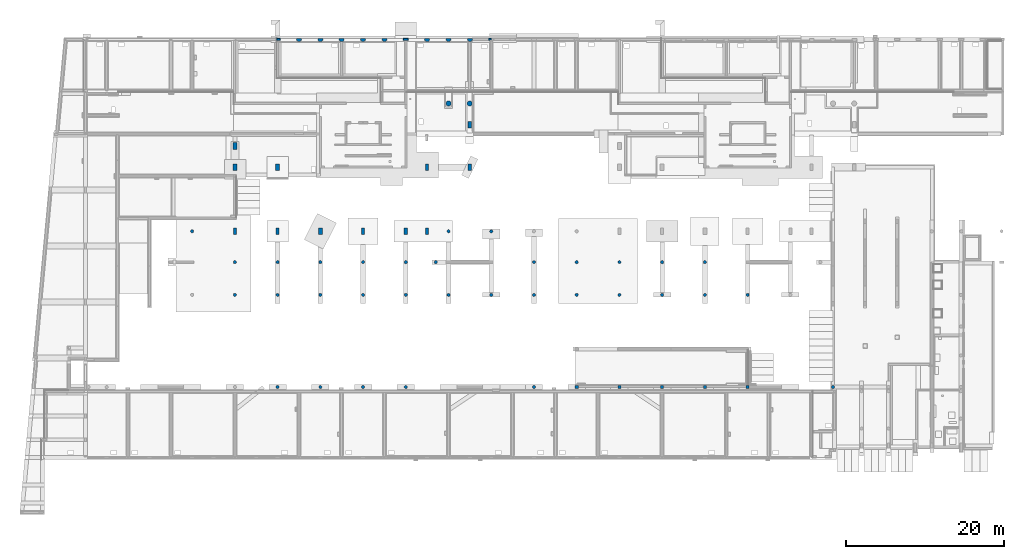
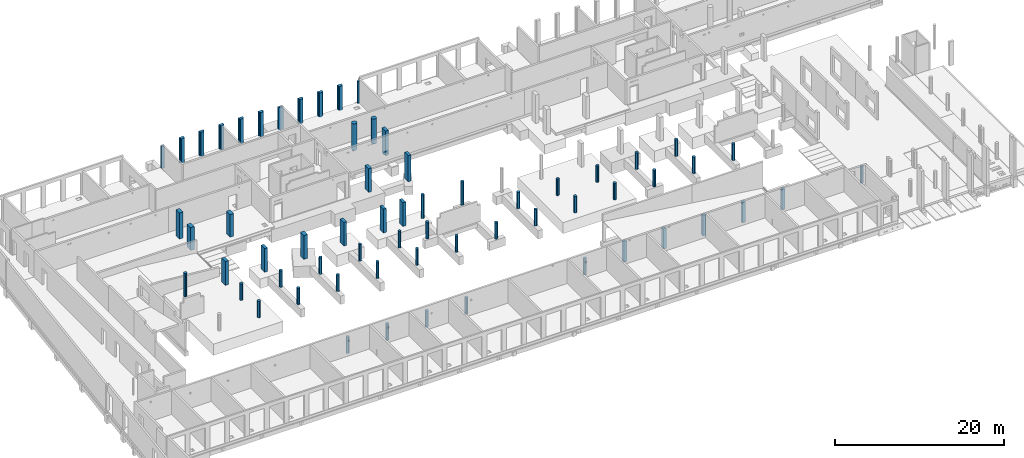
# One storey, part 14 of 60: 63 columns.
"""IFC2X3 building model written with IfcOpenShell, lengths in millimetres."""

from ifc_helpers import new_model, entity, si_unit, converted_unit, derived_unit, direction, frame, frame_2d, origin, origin_2d_with_axis, place, context, subcontext, project, spatial, polyline, rectangle, circle, outline, extrude, source, transform, mapped, material, type_object, type_shapes, element, save


model = new_model("IFC2X3")

# Units and contexts
model_context = context("Model", 3, precision=0.01, world=origin(), true_north=direction((6.12303176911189e-17, 1.0)))
body_context = subcontext(model_context, "Body", "Model", "MODEL_VIEW")
ifc_project = project(units=[si_unit("LENGTHUNIT", "METRE", prefix="MILLI"), si_unit("AREAUNIT", "SQUARE_METRE"), si_unit("VOLUMEUNIT", "CUBIC_METRE"), converted_unit("PLANEANGLEUNIT", "DEGREE", entity("IfcRatioMeasure", 0.0174532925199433), si_unit("PLANEANGLEUNIT", "RADIAN"), dimensions=[0, 0, 0, 0, 0, 0, 0]), si_unit("MASSUNIT", "GRAM", prefix="KILO"), derived_unit("MASSDENSITYUNIT", [(si_unit("MASSUNIT", "GRAM", prefix="KILO"), 1), (si_unit("LENGTHUNIT", "METRE"), -3)]), si_unit("TIMEUNIT", "SECOND"), si_unit("FREQUENCYUNIT", "HERTZ"), si_unit("THERMODYNAMICTEMPERATUREUNIT", "DEGREE_CELSIUS"), derived_unit("THERMALTRANSMITTANCEUNIT", [(si_unit("MASSUNIT", "GRAM", prefix="KILO"), 1), (si_unit("THERMODYNAMICTEMPERATUREUNIT", "KELVIN"), -1), (si_unit("TIMEUNIT", "SECOND"), -3)]), derived_unit("VOLUMETRICFLOWRATEUNIT", [(si_unit("LENGTHUNIT", "METRE"), 3), (si_unit("TIMEUNIT", "SECOND"), -1)]), si_unit("ELECTRICCURRENTUNIT", "AMPERE"), si_unit("ELECTRICVOLTAGEUNIT", "VOLT"), si_unit("POWERUNIT", "WATT"), si_unit("FORCEUNIT", "NEWTON", prefix="KILO"), si_unit("ILLUMINANCEUNIT", "LUX"), si_unit("LUMINOUSFLUXUNIT", "LUMEN"), si_unit("LUMINOUSINTENSITYUNIT", "CANDELA"), derived_unit("USERDEFINED", [(si_unit("MASSUNIT", "GRAM", prefix="KILO"), -1), (si_unit("LENGTHUNIT", "METRE"), -2), (si_unit("TIMEUNIT", "SECOND"), 3), (si_unit("LUMINOUSFLUXUNIT", "LUMEN"), 1)]), derived_unit("LINEARVELOCITYUNIT", [(si_unit("LENGTHUNIT", "METRE"), 1), (si_unit("TIMEUNIT", "SECOND"), -1)]), si_unit("PRESSUREUNIT", "PASCAL"), derived_unit("USERDEFINED", [(si_unit("LENGTHUNIT", "METRE"), -2), (si_unit("MASSUNIT", "GRAM", prefix="KILO"), 1), (si_unit("TIMEUNIT", "SECOND"), -2)])], contexts=[model_context])

# Site, building, storey
site_placement = place(None, origin())
site = spatial("IfcSite", under=ifc_project, at=site_placement, Name="Default", CompositionType="ELEMENT")
building_placement = place(site_placement, origin())
building = spatial("IfcBuilding", under=site, at=building_placement, Name="niet gebruiken", CompositionType="ELEMENT")
storey_placement = place(building_placement, origin())
storey = spatial("IfcBuildingStorey", under=building, at=storey_placement, Name="00 begane grond", CompositionType="ELEMENT", Elevation=0.0)

# Columns
ifc_material_1 = material(Name="NLRS_f2_beton prefab")
column_type_1 = type_object("IfcColumnType", Name="400x850", PredefinedType="COLUMN", material=ifc_material_1)
shared_shape_1 = source(origin(), body_context, "Body", "SweptSolid", [
    extrude(rectangle(XDim=850.0, YDim=400.0, at=origin_2d_with_axis()), frame((0.0, 0.0, -170.0), z_axis=(0.0, 0.0, 1.0), x_axis=(0.0, -1.0, 0.0)), (0.0, 0.0, 1.0), 3430.0),
])
type_shapes(column_type_1, [shared_shape_1])
for number, where, name in (
    (1, (32400.0, 28881.0, 0.0), "NLRS_28. kolom vierkant_gen:400x850"),
    (2, (27025.0, 28881.0, 0.0), "NLRS_28. kolom vierkant_gen:400x850"),
    (3, (43200.0, 28881.0, 0.0), "NLRS_28. kolom vierkant_gen:400x850"),
    (4, (48600.0, 28881.0, 0.0), "NLRS_28. kolom vierkant_gen:400x850"),
    (5, (51275.0, 28881.0, 0.0), "NLRS_28. kolom vierkant_gen:400x850"),
):
    element("IfcColumn", number, at=place(storey_placement, frame(where)), inside=storey, type_object=column_type_1, material=ifc_material_1, Name=name, ObjectType="400x850", context=body_context, shape_type="MappedRepresentation", body=[
        mapped(shared_shape_1, transform((0.0, 0.0, 0.0), scale=1.0)),
    ])
column_1_placement = place(storey_placement, frame((51275.0, 36981.0, 0.0), z_axis=(0.0, 0.0, 1.0), x_axis=(-1.0, 0.0, 0.0)))
element("IfcColumn", 6, at=column_1_placement, inside=storey, type_object=column_type_1, material=ifc_material_1, Name="NLRS_28. kolom vierkant_gen:400x850", ObjectType="400x850", context=body_context, shape_type="MappedRepresentation", body=[
    mapped(shared_shape_1, transform((0.0, 0.0, 0.0), scale=1.0)),
])
column_type_2 = type_object("IfcColumnType", Name="ø400", PredefinedType="COLUMN", material=ifc_material_1)
shared_shape_2 = source(origin(), body_context, "Body", "SweptSolid", [
    extrude(circle(Radius=200.0, at=frame_2d((1.69197988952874e-14, -3.02923644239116e-13), x_axis=(1.0, 0.0))), frame((0.0, 0.0, -170.0)), (0.0, 0.0, 1.0), 2390.00000000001),
])
type_shapes(column_type_2, [shared_shape_2])
for number, where in (
    (7, (27000.0, 24976.0, 0.0)),
    (8, (32400.0, 24976.0, 0.0)),
    (9, (37800.0, 24976.0, 0.0)),
    (10, (43200.0, 24976.0, 0.0)),
    (11, (48600.0, 24976.0, 0.0)),
    (12, (52390.0, 24976.0, 0.0)),
    (13, (27000.0, 20846.0, 0.0)),
    (14, (32400.0, 20846.0, 0.0)),
    (15, (37800.0, 20846.0, 0.0)),
    (16, (43200.0, 20846.0, 0.0)),
    (17, (48600.0, 20846.0, 0.0)),
    (18, (54000.0, 20846.0, 0.0)),
    (19, (64800.0, 24976.0, 0.0)),
    (20, (70200.0, 24976.0, 0.0)),
    (21, (75600.0, 24976.0, 0.0)),
    (22, (81000.0, 24976.0, 0.0)),
    (23, (86400.0, 24976.0, 0.0)),
    (24, (59400.0, 20846.0, 0.0)),
    (25, (64800.0, 20846.0, 0.0)),
    (26, (70200.0, 20846.0, 0.0)),
    (27, (75600.0, 20846.0, 0.0)),
    (28, (81000.0, 20846.0, 0.0)),
    (29, (86400.0, 20846.0, 0.0)),
    (30, (91800.0, 20846.0, 0.0)),
    (31, (43200.0, 9196.0, 0.0)),
    (32, (48600.0, 9196.0, 0.0)),
    (33, (64800.0, 9196.0, 0.0)),
    (34, (32400.0, 9196.0, 0.0)),
    (35, (37800.0, 9196.0, 0.0)),
    (36, (102600.0, 9196.0, 0.0)),
):
    element("IfcColumn", number, at=place(storey_placement, frame(where)), inside=storey, type_object=column_type_2, material=ifc_material_1, Name="NLRS_28. kolom rond_gen:ø400", ObjectType="ø400", context=body_context, shape_type="MappedRepresentation", body=[
        mapped(shared_shape_2, transform((0.0, 0.0, 0.0), scale=1.0)),
    ])
column_type_3 = type_object("IfcColumnType", Name="500x850", PredefinedType="COLUMN", material=ifc_material_1)
shared_shape_3 = source(origin(), body_context, "Body", "SweptSolid", [
    extrude(rectangle(XDim=850.0, YDim=500.0, at=origin_2d_with_axis()), frame((0.0, 0.0, -170.0), z_axis=(0.0, 0.0, 1.0), x_axis=(0.0, -1.0, 0.0)), (0.0, 0.0, 1.0), 3430.0),
])
type_shapes(column_type_3, [shared_shape_3])
column_2_placement = place(storey_placement, frame((37800.0, 28881.0, 0.0)))
element("IfcColumn", 37, at=column_2_placement, inside=storey, type_object=column_type_3, material=ifc_material_1, Name="NLRS_28. kolom vierkant_gen:500x850", ObjectType="500x850", context=body_context, shape_type="MappedRepresentation", body=[
    mapped(shared_shape_3, transform((0.0, 0.0, 0.0), scale=1.0)),
])
column_type_4 = type_object("IfcColumnType", Name="500x850", PredefinedType="COLUMN", material=ifc_material_1)
shared_shape_4 = source(origin(), body_context, "Body", "SweptSolid", [
    extrude(rectangle(XDim=850.0, YDim=500.0, at=origin_2d_with_axis()), frame((0.0, 0.0, -40.0), z_axis=(0.0, 0.0, 1.0), x_axis=(0.0, -1.0, 0.0)), (0.0, 0.0, 1.0), 3300.0),
])
type_shapes(column_type_4, [shared_shape_4])
for number, where, z_axis, x_axis, name in (
    (38, (27025.0, 36981.0, 0.0), (0.0, 0.0, 1.0), (-1.0, 0.0, 0.0), "NLRS_28. kolom vierkant_gen:500x850"),
    (39, (32400.0, 36981.0, 0.0), (0.0, 0.0, 1.0), (-1.0, 0.0, 0.0), "NLRS_28. kolom vierkant_gen:500x850"),
):
    element("IfcColumn", number, at=place(storey_placement, frame(where, z_axis=z_axis, x_axis=x_axis)), inside=storey, type_object=column_type_4, material=ifc_material_1, Name=name, ObjectType="500x850", context=body_context, shape_type="MappedRepresentation", body=[
        mapped(shared_shape_4, transform((0.0, 0.0, 0.0), scale=1.0)),
    ])
column_type_5 = type_object("IfcColumnType", Name="400x850", PredefinedType="COLUMN", material=ifc_material_1)
shared_shape_5 = source(origin(), body_context, "Body", "SweptSolid", [
    extrude(rectangle(XDim=850.0, YDim=400.0, at=origin_2d_with_axis()), frame((0.0, 0.0, -520.0), z_axis=(0.0, 0.0, 1.0), x_axis=(0.0, -1.0, 0.0)), (0.0, 0.0, 1.0), 3780.0),
])
type_shapes(column_type_5, [shared_shape_5])
column_3_placement = place(storey_placement, frame((56675.0, 36981.0, 0.0), z_axis=(0.0, 0.0, 1.0), x_axis=(-1.0, 0.0, 0.0)))
element("IfcColumn", 40, at=column_3_placement, inside=storey, type_object=column_type_5, material=ifc_material_1, Name="NLRS_28. kolom vierkant_gen:400x850", ObjectType="400x850", context=body_context, shape_type="MappedRepresentation", body=[
    mapped(shared_shape_5, transform((0.0, 0.0, 0.0), scale=1.0)),
])
column_type_6 = type_object("IfcColumnType", Name="400x850", PredefinedType="COLUMN", material=ifc_material_1)
shared_shape_6 = source(origin(), body_context, "Body", "SweptSolid", [
    extrude(rectangle(XDim=850.0, YDim=400.0, at=origin_2d_with_axis()), frame((0.0, 0.0, -40.0), z_axis=(0.0, 0.0, 1.0), x_axis=(0.0, -1.0, 0.0)), (0.0, 0.0, 1.0), 3600.0),
])
type_shapes(column_type_6, [shared_shape_6])
column_4_placement = place(storey_placement, frame((56675.0, 42331.0, 0.0), z_axis=(0.0, 0.0, 1.0), x_axis=(-1.0, 0.0, 0.0)))
element("IfcColumn", 41, at=column_4_placement, inside=storey, type_object=column_type_6, material=ifc_material_1, Name="NLRS_28. kolom vierkant_gen:400x850", ObjectType="400x850", context=body_context, shape_type="MappedRepresentation", body=[
    mapped(shared_shape_6, transform((0.0, 0.0, 0.0), scale=1.0)),
])
column_type_7 = type_object("IfcColumnType", Name="500x850", PredefinedType="COLUMN", material=ifc_material_1)
shared_shape_7 = source(origin(), body_context, "Body", "SweptSolid", [
    extrude(rectangle(XDim=850.0, YDim=500.0, at=origin_2d_with_axis()), frame((0.0, 0.0, -40.0), z_axis=(0.0, 0.0, 1.0), x_axis=(0.0, -1.0, 0.0)), (0.0, 0.0, 1.0), 3780.0),
])
type_shapes(column_type_7, [shared_shape_7])
column_5_placement = place(storey_placement, frame((27025.0, 39656.0, 0.0), z_axis=(0.0, 0.0, 1.0), x_axis=(-1.0, 0.0, 0.0)))
element("IfcColumn", 42, at=column_5_placement, inside=storey, type_object=column_type_7, material=ifc_material_1, Name="NLRS_28. kolom vierkant_gen:500x850", ObjectType="500x850", context=body_context, shape_type="MappedRepresentation", body=[
    mapped(shared_shape_7, transform((0.0, 0.0, 0.0), scale=1.0)),
])
column_type_8 = type_object("IfcColumnType", Name="ø400", PredefinedType="COLUMN", material=ifc_material_1)
shared_shape_8 = source(origin(), body_context, "Body", "SweptSolid", [
    extrude(circle(Radius=200.0, at=frame_2d((1.69197988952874e-14, -3.02923644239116e-13), x_axis=(1.0, 0.0))), frame((0.0, 0.0, -170.0)), (0.0, 0.0, 1.0), 3430.0),
])
type_shapes(column_type_8, [shared_shape_8])
for number, where in (
    (43, (21600.0, 28881.0, 0.0)),
    (44, (54000.0, 28881.0, 0.0)),
    (45, (59400.0, 28881.0, 0.0)),
):
    element("IfcColumn", number, at=place(storey_placement, frame(where)), inside=storey, type_object=column_type_8, material=ifc_material_1, Name="NLRS_28. kolom rond_gen:ø400", ObjectType="ø400", context=body_context, shape_type="MappedRepresentation", body=[
        mapped(shared_shape_8, transform((0.0, 0.0, 0.0), scale=1.0)),
    ])
column_type_9 = type_object("IfcColumnType", Name="ø650", PredefinedType="COLUMN", material=ifc_material_1)
shared_shape_9 = source(origin(), body_context, "Body", "SweptSolid", [
    extrude(circle(Radius=325.0, at=frame_2d((3.38395977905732e-14, 4.90135947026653e-13), x_axis=(1.0, 0.0))), frame((0.0, 0.0, -40.0), z_axis=(0.0, 0.0, 1.0), x_axis=(-1.0, 0.0, 0.0)), (0.0, 0.0, 1.0), 3850.00000000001),
])
type_shapes(column_type_9, [shared_shape_9])
column_6_placement = place(storey_placement, frame((54000.0, 45031.0, 0.0)))
element("IfcColumn", 46, at=column_6_placement, inside=storey, type_object=column_type_9, material=ifc_material_1, Name="NLRS_28. kolom rond_gen:ø650", ObjectType="ø650", context=body_context, shape_type="MappedRepresentation", body=[
    mapped(shared_shape_9, transform((0.0, 0.0, 0.0), scale=1.0)),
])
column_type_10 = type_object("IfcColumnType", Name="ø650", PredefinedType="COLUMN", material=ifc_material_1)
shared_shape_10 = source(origin(), body_context, "Body", "SweptSolid", [
    extrude(circle(Radius=325.0, at=frame_2d((3.38395977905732e-14, 4.90135947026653e-13), x_axis=(1.0, 0.0))), frame((0.0, 0.0, -40.0), z_axis=(0.0, 0.0, 1.0), x_axis=(-1.0, 0.0, 0.0)), (0.0, 0.0, 1.0), 3600.0),
])
type_shapes(column_type_10, [shared_shape_10])
column_7_placement = place(storey_placement, frame((56675.0, 45031.0, 0.0)))
element("IfcColumn", 47, at=column_7_placement, inside=storey, type_object=column_type_10, material=ifc_material_1, Name="NLRS_28. kolom rond_gen:ø650", ObjectType="ø650", context=body_context, shape_type="MappedRepresentation", body=[
    mapped(shared_shape_10, transform((0.0, 0.0, 0.0), scale=1.0)),
])
column_type_11 = type_object("IfcColumnType", Name="400x400", PredefinedType="COLUMN", material=ifc_material_1)
shared_shape_11 = source(origin(), body_context, "Body", "SweptSolid", [
    extrude(rectangle(XDim=400.0, YDim=400.0, at=origin_2d_with_axis()), frame((0.0, 0.0, -170.0), z_axis=(0.0, 0.0, 1.0), x_axis=(0.0, -1.0, 0.0)), (0.0, 0.0, 1.0), 2950.00000000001),
])
type_shapes(column_type_11, [shared_shape_11])
for number, where, name in (
    (48, (70200.0, 9196.0, 0.0), "NLRS_28. kolom vierkant_gen:400x400"),
    (49, (75600.0, 9196.0, 0.0), "NLRS_28. kolom vierkant_gen:400x400"),
    (50, (81000.0, 9196.0, 0.0), "NLRS_28. kolom vierkant_gen:400x400"),
    (51, (86400.0, 9196.0, 0.0), "NLRS_28. kolom vierkant_gen:400x400"),
    (52, (91800.0, 9196.0, 0.0), "NLRS_28. kolom vierkant_gen:400x400"),
):
    element("IfcColumn", number, at=place(storey_placement, frame(where)), inside=storey, type_object=column_type_11, material=ifc_material_1, Name=name, ObjectType="400x400", context=body_context, shape_type="MappedRepresentation", body=[
        mapped(shared_shape_11, transform((0.0, 0.0, 0.0), scale=1.0)),
    ])
ifc_material_2 = material(Name="NLRS_f2_beton ihwg")
column_type_12 = type_object("IfcColumnType", Name="620x410/105x160/105x160", PredefinedType="COLUMN", material=ifc_material_2)
shared_shape_12 = source(origin(), body_context, "Body", "SweptSolid", [
    extrude(outline(polyline([(-227.499999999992, -310.0), (22.5000000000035, -310.0), (22.5000000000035, -205.0), (182.500000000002, -205.0), (182.500000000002, 205.0), (22.5000000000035, 205.0), (22.5000000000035, 310.0), (-227.499999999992, 310.0), (-227.499999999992, -310.0)])), frame((54000.0, 53028.5, -160.0), z_axis=(0.0, 0.0, 1.0), x_axis=(0.0, -1.0, 0.0)), (0.0, 0.0, 1.0), 3510.00000000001),
])
type_shapes(column_type_12, [shared_shape_12])
column_8_placement = place(storey_placement, origin())
element("IfcColumn", 53, at=column_8_placement, inside=storey, type_object=column_type_12, material=ifc_material_2, Name="NLRS_28.11_SCO_TLB_beton kolom ihwg dubbele sponning_gen:620x410/105x160/105x160", ObjectType="620x410/105x160/105x160", context=body_context, shape_type="MappedRepresentation", body=[
    mapped(shared_shape_12, transform((0.0, 0.0, 0.0), scale=1.0)),
])
column_type_13 = type_object("IfcColumnType", Name="620x410/105x160/105x160", PredefinedType="COLUMN", material=ifc_material_2)
shared_shape_13 = source(origin(), body_context, "Body", "SweptSolid", [
    extrude(outline(polyline([(-227.499999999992, -310.0), (22.5000000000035, -310.0), (22.5000000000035, -205.0), (182.500000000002, -205.0), (182.500000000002, 205.0), (22.5000000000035, 205.0), (22.5000000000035, 310.0), (-227.499999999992, 310.0), (-227.499999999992, -310.0)])), frame((51300.0, 53028.5, -160.0), z_axis=(0.0, 0.0, 1.0), x_axis=(0.0, -1.0, 0.0)), (0.0, 0.0, 1.0), 3510.00000000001),
])
type_shapes(column_type_13, [shared_shape_13])
column_9_placement = place(storey_placement, origin())
element("IfcColumn", 54, at=column_9_placement, inside=storey, type_object=column_type_13, material=ifc_material_2, Name="NLRS_28.11_SCO_TLB_beton kolom ihwg dubbele sponning_gen:620x410/105x160/105x160", ObjectType="620x410/105x160/105x160", context=body_context, shape_type="MappedRepresentation", body=[
    mapped(shared_shape_13, transform((0.0, 0.0, 0.0), scale=1.0)),
])
column_type_14 = type_object("IfcColumnType", Name="620x410/105x160/105x160", PredefinedType="COLUMN", material=ifc_material_2)
shared_shape_14 = source(origin(), body_context, "Body", "SweptSolid", [
    extrude(outline(polyline([(-227.499999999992, -310.0), (22.5000000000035, -310.0), (22.5000000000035, -205.0), (182.500000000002, -205.0), (182.500000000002, 205.0), (22.5000000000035, 205.0), (22.5000000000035, 310.0), (-227.499999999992, 310.0), (-227.499999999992, -310.0)])), frame((45900.0, 53028.5, -160.0), z_axis=(0.0, 0.0, 1.0), x_axis=(0.0, -1.0, 0.0)), (0.0, 0.0, 1.0), 3510.00000000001),
])
type_shapes(column_type_14, [shared_shape_14])
column_10_placement = place(storey_placement, origin())
element("IfcColumn", 55, at=column_10_placement, inside=storey, type_object=column_type_14, material=ifc_material_2, Name="NLRS_28.11_SCO_TLB_beton kolom ihwg dubbele sponning_gen:620x410/105x160/105x160", ObjectType="620x410/105x160/105x160", context=body_context, shape_type="MappedRepresentation", body=[
    mapped(shared_shape_14, transform((0.0, 0.0, 0.0), scale=1.0)),
])
column_type_15 = type_object("IfcColumnType", Name="620x410/105x160/105x160", PredefinedType="COLUMN", material=ifc_material_2)
shared_shape_15 = source(origin(), body_context, "Body", "SweptSolid", [
    extrude(outline(polyline([(-227.499999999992, -310.0), (22.5000000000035, -310.0), (22.5000000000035, -205.0), (182.500000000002, -205.0), (182.500000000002, 205.0), (22.5000000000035, 205.0), (22.5000000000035, 310.0), (-227.499999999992, 310.0), (-227.499999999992, -310.0)])), frame((43200.0, 53028.5, -160.0), z_axis=(0.0, 0.0, 1.0), x_axis=(0.0, -1.0, 0.0)), (0.0, 0.0, 1.0), 3510.00000000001),
])
type_shapes(column_type_15, [shared_shape_15])
column_11_placement = place(storey_placement, origin())
element("IfcColumn", 56, at=column_11_placement, inside=storey, type_object=column_type_15, material=ifc_material_2, Name="NLRS_28.11_SCO_TLB_beton kolom ihwg dubbele sponning_gen:620x410/105x160/105x160", ObjectType="620x410/105x160/105x160", context=body_context, shape_type="MappedRepresentation", body=[
    mapped(shared_shape_15, transform((0.0, 0.0, 0.0), scale=1.0)),
])
column_type_16 = type_object("IfcColumnType", Name="620x410/105x160/105x160", PredefinedType="COLUMN", material=ifc_material_2)
shared_shape_16 = source(origin(), body_context, "Body", "SweptSolid", [
    extrude(outline(polyline([(-227.499999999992, -310.0), (22.5000000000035, -310.0), (22.5000000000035, -205.0), (182.500000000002, -205.0), (182.500000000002, 205.0), (22.5000000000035, 205.0), (22.5000000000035, 310.0), (-227.499999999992, 310.0), (-227.499999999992, -310.0)])), frame((40500.0, 53028.5, -160.0), z_axis=(0.0, 0.0, 1.0), x_axis=(0.0, -1.0, 0.0)), (0.0, 0.0, 1.0), 3510.00000000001),
])
type_shapes(column_type_16, [shared_shape_16])
column_12_placement = place(storey_placement, origin())
element("IfcColumn", 57, at=column_12_placement, inside=storey, type_object=column_type_16, material=ifc_material_2, Name="NLRS_28.11_SCO_TLB_beton kolom ihwg dubbele sponning_gen:620x410/105x160/105x160", ObjectType="620x410/105x160/105x160", context=body_context, shape_type="MappedRepresentation", body=[
    mapped(shared_shape_16, transform((0.0, 0.0, 0.0), scale=1.0)),
])
column_type_17 = type_object("IfcColumnType", Name="620x410/105x160/105x160", PredefinedType="COLUMN", material=ifc_material_2)
shared_shape_17 = source(origin(), body_context, "Body", "SweptSolid", [
    extrude(outline(polyline([(-227.5, -310.0), (22.4999999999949, -310.0), (22.4999999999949, -205.0), (182.499999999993, -205.0), (182.499999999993, 205.0), (22.4999999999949, 205.0), (22.4999999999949, 310.0), (-227.5, 310.0), (-227.5, -310.0)])), frame((35100.0, 53028.5, -160.0), z_axis=(0.0, 0.0, 1.0), x_axis=(0.0, -1.0, 0.0)), (0.0, 0.0, 1.0), 3510.00000000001),
])
type_shapes(column_type_17, [shared_shape_17])
column_13_placement = place(storey_placement, origin())
element("IfcColumn", 58, at=column_13_placement, inside=storey, type_object=column_type_17, material=ifc_material_2, Name="NLRS_28.11_SCO_TLB_beton kolom ihwg dubbele sponning_gen:620x410/105x160/105x160", ObjectType="620x410/105x160/105x160", context=body_context, shape_type="MappedRepresentation", body=[
    mapped(shared_shape_17, transform((0.0, 0.0, 0.0), scale=1.0)),
])
column_type_18 = type_object("IfcColumnType", Name="620x410/105x160/105x160", PredefinedType="COLUMN", material=ifc_material_2)
shared_shape_18 = source(origin(), body_context, "Body", "SweptSolid", [
    extrude(outline(polyline([(-227.5, -310.0), (22.4999999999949, -310.0), (22.4999999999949, -205.0), (182.499999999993, -205.0), (182.499999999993, 205.0), (22.4999999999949, 205.0), (22.4999999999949, 310.0), (-227.5, 310.0), (-227.5, -310.0)])), frame((56700.0, 53028.5, -160.0), z_axis=(0.0, 0.0, 1.0), x_axis=(0.0, -1.0, 0.0)), (0.0, 0.0, 1.0), 3510.00000000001),
])
type_shapes(column_type_18, [shared_shape_18])
column_14_placement = place(storey_placement, origin())
element("IfcColumn", 59, at=column_14_placement, inside=storey, type_object=column_type_18, material=ifc_material_2, Name="NLRS_28.11_SCO_TLB_beton kolom ihwg dubbele sponning_gen:620x410/105x160/105x160", ObjectType="620x410/105x160/105x160", context=body_context, shape_type="MappedRepresentation", body=[
    mapped(shared_shape_18, transform((0.0, 0.0, 0.0), scale=1.0)),
])
column_type_19 = type_object("IfcColumnType", Name="410x250", PredefinedType="COLUMN", material=ifc_material_2)
shared_shape_19 = source(origin(), body_context, "Body", "SweptSolid", [
    extrude(rectangle(XDim=250.000000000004, YDim=410.000000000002, at=origin_2d_with_axis()), frame((32505.0, 53131.0, -160.0), z_axis=(0.0, 0.0, 1.0), x_axis=(0.0, -1.0, 0.0)), (0.0, 0.0, 1.0), 3230.00000000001),
])
type_shapes(column_type_19, [shared_shape_19])
column_15_placement = place(storey_placement, origin())
element("IfcColumn", 60, at=column_15_placement, inside=storey, type_object=column_type_19, material=ifc_material_2, Name="NLRS_28.11_SCO_TLB_beton kolom ihwg_gen:410x250", ObjectType="410x250", context=body_context, shape_type="MappedRepresentation", body=[
    mapped(shared_shape_19, transform((0.0, 0.0, 0.0), scale=1.0)),
])
column_type_20 = type_object("IfcColumnType", Name="620x250", PredefinedType="COLUMN", material=ifc_material_2)
shared_shape_20 = source(origin(), body_context, "Body", "SweptSolid", [
    extrude(rectangle(XDim=250.000000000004, YDim=619.999999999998, at=origin_2d_with_axis()), frame((48600.0, 53131.0, -160.0), z_axis=(0.0, 0.0, 1.0), x_axis=(0.0, -1.0, 0.0)), (0.0, 0.0, 1.0), 3230.00000000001),
])
type_shapes(column_type_20, [shared_shape_20])
column_16_placement = place(storey_placement, origin())
element("IfcColumn", 61, at=column_16_placement, inside=storey, type_object=column_type_20, material=ifc_material_2, Name="NLRS_28.11_SCO_TLB_beton kolom ihwg_gen:620x250", ObjectType="620x250", context=body_context, shape_type="MappedRepresentation", body=[
    mapped(shared_shape_20, transform((0.0, 0.0, 0.0), scale=1.0)),
])
column_type_21 = type_object("IfcColumnType", Name="620x410/105x160/105x160", PredefinedType="COLUMN", material=ifc_material_2)
shared_shape_21 = source(origin(), body_context, "Body", "SweptSolid", [
    extrude(outline(polyline([(-227.5, -310.0), (22.4999999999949, -310.0), (22.4999999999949, -205.0), (182.499999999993, -205.0), (182.499999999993, 205.0), (22.4999999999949, 205.0), (22.4999999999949, 310.0), (-227.5, 310.0), (-227.5, -310.0)])), frame((37800.0, 53028.5, -160.0), z_axis=(0.0, 0.0, 1.0), x_axis=(0.0, -1.0, 0.0)), (0.0, 0.0, 1.0), 3510.00000000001),
])
type_shapes(column_type_21, [shared_shape_21])
column_17_placement = place(storey_placement, origin())
element("IfcColumn", 62, at=column_17_placement, inside=storey, type_object=column_type_21, material=ifc_material_2, Name="NLRS_28.11_SCO_TLB_beton kolom ihwg dubbele sponning_gen:620x410/105x160/105x160", ObjectType="620x410/105x160/105x160", context=body_context, shape_type="MappedRepresentation", body=[
    mapped(shared_shape_21, transform((0.0, 0.0, 0.0), scale=1.0)),
])
column_type_22 = type_object("IfcColumnType", Name="290x250", PredefinedType="COLUMN", material=ifc_material_2)
shared_shape_22 = source(origin(), body_context, "Body", "SweptSolid", [
    extrude(rectangle(XDim=250.000000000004, YDim=290.000000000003, at=origin_2d_with_axis()), frame((59235.0, 53131.0, -160.0), z_axis=(0.0, 0.0, 1.0), x_axis=(0.0, -1.0, 0.0)), (0.0, 0.0, 1.0), 3230.00000000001),
])
type_shapes(column_type_22, [shared_shape_22])
column_18_placement = place(storey_placement, origin())
element("IfcColumn", 63, at=column_18_placement, inside=storey, type_object=column_type_22, material=ifc_material_2, Name="NLRS_28.11_SCO_TLB_beton kolom ihwg_gen:290x250", ObjectType="290x250", context=body_context, shape_type="MappedRepresentation", body=[
    mapped(shared_shape_22, transform((0.0, 0.0, 0.0), scale=1.0)),
])

save(model, "model.ifc")
